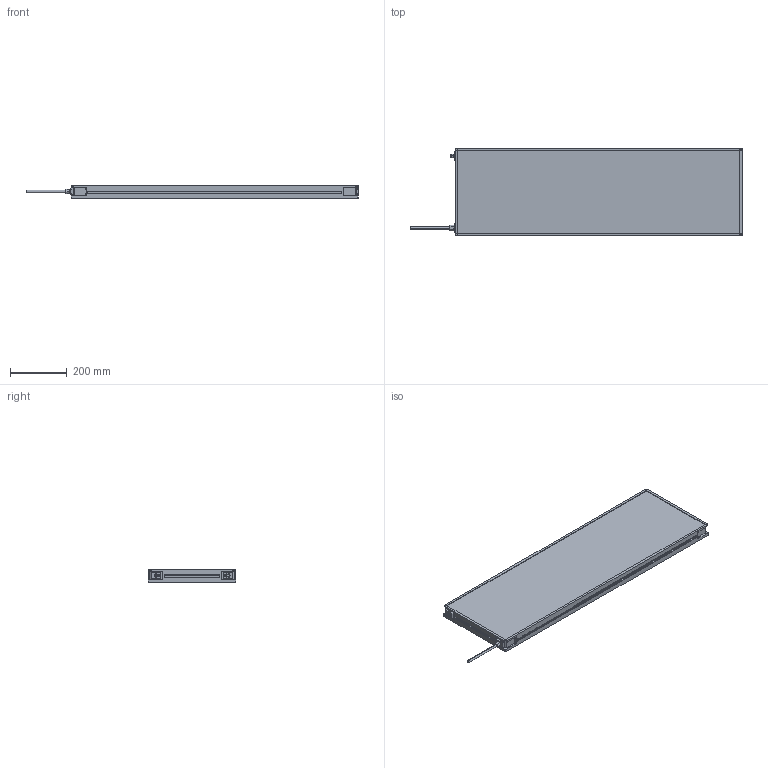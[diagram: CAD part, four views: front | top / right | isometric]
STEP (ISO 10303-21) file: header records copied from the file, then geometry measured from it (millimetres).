
FILE_DESCRIPTION (( 'STEP AP214' ), '1' );
FILE_NAME ('MBACK-xxxx-xxx-M1A2_CLIENT300x1000.STEP', '2022-04-01T11:31:54', ( '' ), ( '' ), 'SwSTEP 2.0', 'SolidWorks 2020', '' );
FILE_SCHEMA (( 'AUTOMOTIVE_DESIGN' ));
Length unit declared in the file: millimetre
Products named in the file (1): MBACK-xxxx-xxx-M1A2_CLIENT300x1000
Bounding box: 1167.4 x 308 x 45.5 mm (x, y, z)
Volume: 12891861.1 mm3; surface area: 801614.9 mm2
Topology: 1 solids, 1 shells, 470 faces, 1210 edges, 804 vertices
Faces by surface type: plane 265, cylinder 117, bspline 80, cone 8
Entity records: 18046 total; most frequent: CARTESIAN_POINT 6837, ORIENTED_EDGE 2420, DIRECTION 2082, EDGE_CURVE 1210, VERTEX_POINT 804, VECTOR 800, LINE 800, AXIS2_PLACEMENT_3D 641
